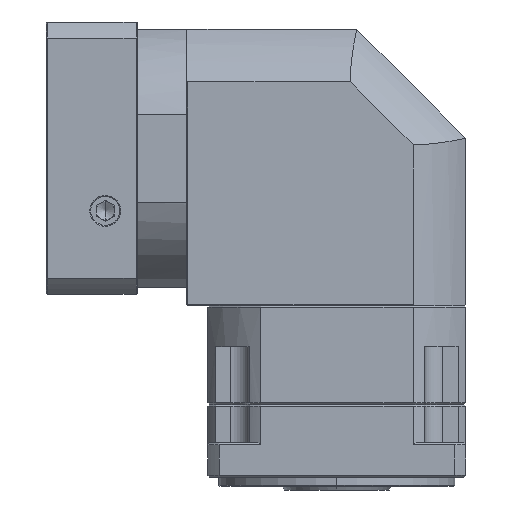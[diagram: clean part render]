
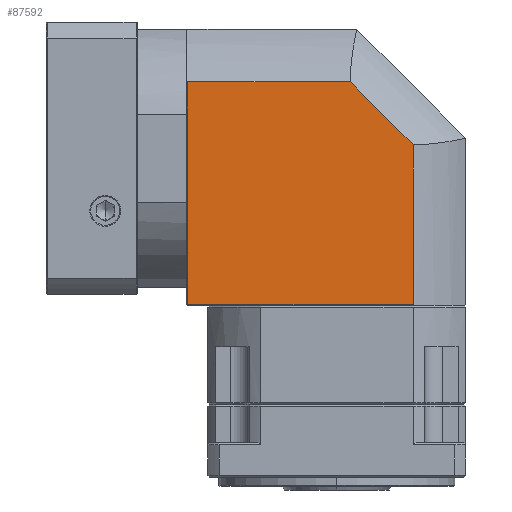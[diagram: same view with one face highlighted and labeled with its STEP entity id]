
A CAD part, left-side view. The second image highlights one B-rep face of the part: STEP entity #87592.
In plain terms, the highlighted planar face has unit normal (-1, 0, 0).
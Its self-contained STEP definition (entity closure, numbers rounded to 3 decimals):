
#761 = DIRECTION ( 'NONE',  ( 0., -1., 0. ) ) ;
#4031 = CARTESIAN_POINT ( 'NONE',  ( -29.966, -91.099, 340.174 ) ) ;
#4610 = DIRECTION ( 'NONE',  ( 0., 0., 1. ) ) ;
#11380 = VECTOR ( 'NONE', #761, 1000. ) ;
#25097 = VERTEX_POINT ( 'NONE', #141039 ) ;
#27390 = VERTEX_POINT ( 'NONE', #135934 ) ;
#28694 = CARTESIAN_POINT ( 'NONE',  ( -29.966, -91.099, 264.574 ) ) ;
#33429 = ORIENTED_EDGE ( 'NONE', *, *, #66226, .T. ) ;
#34262 = EDGE_LOOP ( 'NONE', ( #33429, #100800, #102571, #64838, #59475 ) ) ;
#39758 = EDGE_CURVE ( 'NONE', #108279, #27390, #54937, .T. ) ;
#42750 = DIRECTION ( 'NONE',  ( 0., 0., -1. ) ) ;
#43987 = PLANE ( 'NONE',  #133485 ) ;
#45199 = CARTESIAN_POINT ( 'NONE',  ( -29.966, 32.916, 387.289 ) ) ;
#45229 = EDGE_CURVE ( 'NONE', #56907, #25097, #74363, .T. ) ;
#52731 = LINE ( 'NONE', #82883, #152763 ) ;
#54937 = LINE ( 'NONE', #70744, #124276 ) ;
#56907 = VERTEX_POINT ( 'NONE', #28694 ) ;
#59475 = ORIENTED_EDGE ( 'NONE', *, *, #45229, .T. ) ;
#63291 = DIRECTION ( 'NONE',  ( 0., 0.707, 0.707 ) ) ;
#64838 = ORIENTED_EDGE ( 'NONE', *, *, #89141, .T. ) ;
#66226 = EDGE_CURVE ( 'NONE', #25097, #148882, #69882, .T. ) ;
#69882 = LINE ( 'NONE', #128244, #159723 ) ;
#70744 = CARTESIAN_POINT ( 'NONE',  ( -29.966, 32.916, 340.174 ) ) ;
#71739 = EDGE_CURVE ( 'NONE', #148882, #108279, #52731, .T. ) ;
#74363 = LINE ( 'NONE', #4031, #154116 ) ;
#82883 = CARTESIAN_POINT ( 'NONE',  ( -29.966, -43.334, 387.289 ) ) ;
#87592 = ADVANCED_FACE ( 'NONE', ( #161489 ), #43987, .T. ) ;
#89141 = EDGE_CURVE ( 'NONE', #27390, #56907, #160514, .T. ) ;
#97635 = DIRECTION ( 'NONE',  ( 0., 1., 0. ) ) ;
#100800 = ORIENTED_EDGE ( 'NONE', *, *, #71739, .T. ) ;
#102571 = ORIENTED_EDGE ( 'NONE', *, *, #39758, .T. ) ;
#107910 = DIRECTION ( 'NONE',  ( 0., 0., -1. ) ) ;
#108279 = VERTEX_POINT ( 'NONE', #45199 ) ;
#109034 = DIRECTION ( 'NONE',  ( -1., 0., 0. ) ) ;
#112658 = CARTESIAN_POINT ( 'NONE',  ( -29.966, -56.426, 387.289 ) ) ;
#124276 = VECTOR ( 'NONE', #42750, 1000. ) ;
#128244 = CARTESIAN_POINT ( 'NONE',  ( -29.966, -91.099, 352.617 ) ) ;
#133485 = AXIS2_PLACEMENT_3D ( 'NONE', #148460, #109034, #107910 ) ;
#135934 = CARTESIAN_POINT ( 'NONE',  ( -29.966, 32.916, 264.574 ) ) ;
#141039 = CARTESIAN_POINT ( 'NONE',  ( -29.966, -91.099, 352.617 ) ) ;
#148460 = CARTESIAN_POINT ( 'NONE',  ( -29.966, -43.334, 340.174 ) ) ;
#148882 = VERTEX_POINT ( 'NONE', #112658 ) ;
#152763 = VECTOR ( 'NONE', #97635, 1000. ) ;
#154116 = VECTOR ( 'NONE', #4610, 1000. ) ;
#158959 = CARTESIAN_POINT ( 'NONE',  ( -29.966, -43.334, 264.574 ) ) ;
#159723 = VECTOR ( 'NONE', #63291, 1000. ) ;
#160514 = LINE ( 'NONE', #158959, #11380 ) ;
#161489 = FACE_OUTER_BOUND ( 'NONE', #34262, .T. ) ;
